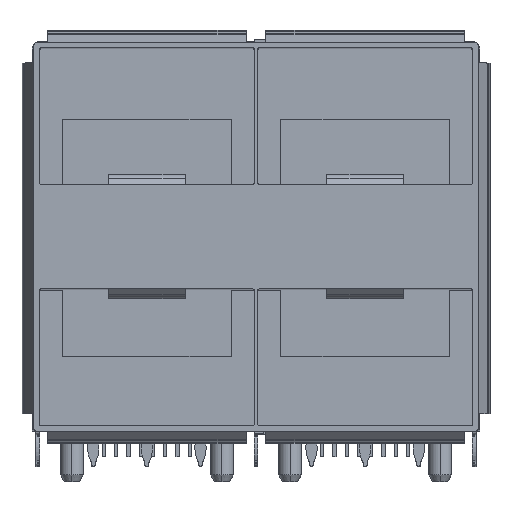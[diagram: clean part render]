
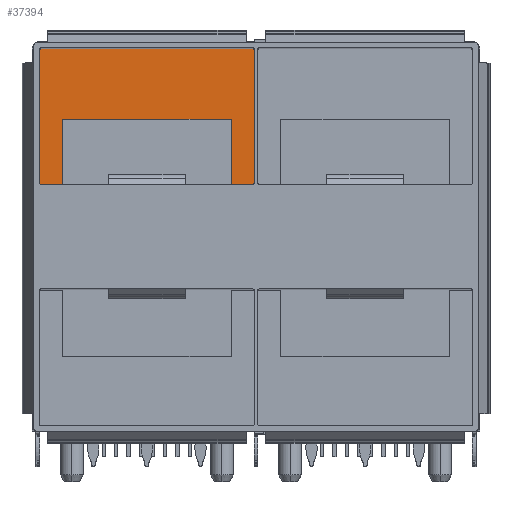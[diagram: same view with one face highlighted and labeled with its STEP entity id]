
A CAD part, top view. The second image highlights one B-rep face of the part: STEP entity #37394.
In plain terms, the highlighted planar face has unit normal (0, 0, 1).
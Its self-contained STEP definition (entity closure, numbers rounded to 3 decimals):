
#45 = ORIENTED_EDGE ( 'NONE', *, *, #14659, .T. ) ;
#656 = CARTESIAN_POINT ( 'NONE',  ( -14.125, 16.1, -48.55 ) ) ;
#1161 = VECTOR ( 'NONE', #45041, 1000. ) ;
#1521 = CARTESIAN_POINT ( 'NONE',  ( -0.225, 24.85, -48.55 ) ) ;
#1567 = VECTOR ( 'NONE', #22207, 1000. ) ;
#2042 = ORIENTED_EDGE ( 'NONE', *, *, #29940, .T. ) ;
#2262 = LINE ( 'NONE', #33394, #37397 ) ;
#2570 = CIRCLE ( 'NONE', #39763, 0.1 ) ;
#2774 = EDGE_CURVE ( 'NONE', #47949, #22321, #49036, .T. ) ;
#4206 = LINE ( 'NONE', #47918, #9230 ) ;
#5104 = CARTESIAN_POINT ( 'NONE',  ( -12.625, 16., -48.55 ) ) ;
#5535 = DIRECTION ( 'NONE',  ( 0., 0., 1. ) ) ;
#5546 = DIRECTION ( 'NONE',  ( 0., 0., 1. ) ) ;
#6894 = ORIENTED_EDGE ( 'NONE', *, *, #43107, .T. ) ;
#8395 = ORIENTED_EDGE ( 'NONE', *, *, #34137, .T. ) ;
#8482 = CARTESIAN_POINT ( 'NONE',  ( -12.625, 20.35, -48.55 ) ) ;
#8944 = ORIENTED_EDGE ( 'NONE', *, *, #2774, .T. ) ;
#9230 = VECTOR ( 'NONE', #11602, 1000. ) ;
#10149 = ORIENTED_EDGE ( 'NONE', *, *, #39039, .T. ) ;
#11602 = DIRECTION ( 'NONE',  ( 1., 0., 0. ) ) ;
#12630 = EDGE_CURVE ( 'NONE', #35079, #36282, #4206, .T. ) ;
#13320 = LINE ( 'NONE', #24440, #30917 ) ;
#13632 = DIRECTION ( 'NONE',  ( -1., 0., 0. ) ) ;
#14378 = LINE ( 'NONE', #44707, #1161 ) ;
#14659 = EDGE_CURVE ( 'NONE', #30217, #16725, #34610, .T. ) ;
#15073 = VERTEX_POINT ( 'NONE', #8482 ) ;
#15475 = DIRECTION ( 'NONE',  ( 0., 0., 1. ) ) ;
#15514 = FACE_OUTER_BOUND ( 'NONE', #25792, .T. ) ;
#15607 = CIRCLE ( 'NONE', #28026, 0.1 ) ;
#15650 = DIRECTION ( 'NONE',  ( -1., 0., 0. ) ) ;
#16276 = VERTEX_POINT ( 'NONE', #656 ) ;
#16397 = VERTEX_POINT ( 'NONE', #30175 ) ;
#16554 = ORIENTED_EDGE ( 'NONE', *, *, #29213, .T. ) ;
#16725 = VERTEX_POINT ( 'NONE', #51191 ) ;
#17485 = LINE ( 'NONE', #45959, #48272 ) ;
#17534 = ORIENTED_EDGE ( 'NONE', *, *, #31127, .T. ) ;
#18154 = PLANE ( 'NONE',  #36897 ) ;
#19294 = ORIENTED_EDGE ( 'NONE', *, *, #50941, .T. ) ;
#19334 = AXIS2_PLACEMENT_3D ( 'NONE', #25747, #5535, #13632 ) ;
#20146 = EDGE_CURVE ( 'NONE', #16397, #45902, #2570, .T. ) ;
#20498 = VECTOR ( 'NONE', #42543, 1000. ) ;
#22207 = DIRECTION ( 'NONE',  ( 0., -1., 0. ) ) ;
#22321 = VERTEX_POINT ( 'NONE', #37436 ) ;
#22376 = DIRECTION ( 'NONE',  ( 0., 0., -1. ) ) ;
#22395 = CARTESIAN_POINT ( 'NONE',  ( -12.625, 20.35, -48.55 ) ) ;
#22973 = EDGE_CURVE ( 'NONE', #15073, #38320, #49417, .T. ) ;
#24440 = CARTESIAN_POINT ( 'NONE',  ( -0.225, 24.95, -48.55 ) ) ;
#25473 = ORIENTED_EDGE ( 'NONE', *, *, #12630, .T. ) ;
#25747 = CARTESIAN_POINT ( 'NONE',  ( -14.025, 16.1, -48.55 ) ) ;
#25792 = EDGE_LOOP ( 'NONE', ( #45, #19294, #44685, #10149, #8395, #8944, #2042, #39417, #6894, #25473, #16554, #17534 ) ) ;
#25907 = CARTESIAN_POINT ( 'NONE',  ( -14.125, 24.85, -48.55 ) ) ;
#28026 = AXIS2_PLACEMENT_3D ( 'NONE', #40721, #15475, #15650 ) ;
#28091 = CARTESIAN_POINT ( 'NONE',  ( -1.625, 20.35, -48.55 ) ) ;
#29213 = EDGE_CURVE ( 'NONE', #36282, #46236, #15607, .T. ) ;
#29940 = EDGE_CURVE ( 'NONE', #22321, #15073, #14378, .T. ) ;
#30175 = CARTESIAN_POINT ( 'NONE',  ( -14.025, 24.95, -48.55 ) ) ;
#30217 = VERTEX_POINT ( 'NONE', #42404 ) ;
#30639 = CARTESIAN_POINT ( 'NONE',  ( -14.375, 25.2, -48.55 ) ) ;
#30917 = VECTOR ( 'NONE', #40223, 1000. ) ;
#31127 = EDGE_CURVE ( 'NONE', #46236, #30217, #2262, .T. ) ;
#33394 = CARTESIAN_POINT ( 'NONE',  ( -0.125, 16.1, -48.55 ) ) ;
#33674 = DIRECTION ( 'NONE',  ( -1., 0., 0. ) ) ;
#34137 = EDGE_CURVE ( 'NONE', #16276, #47949, #47327, .T. ) ;
#34610 = CIRCLE ( 'NONE', #38263, 0.1 ) ;
#35079 = VERTEX_POINT ( 'NONE', #44058 ) ;
#36282 = VERTEX_POINT ( 'NONE', #44103 ) ;
#36897 = AXIS2_PLACEMENT_3D ( 'NONE', #30639, #22376, #38300 ) ;
#37197 = DIRECTION ( 'NONE',  ( 0., 1., 0. ) ) ;
#37394 = ADVANCED_FACE ( 'NONE', ( #15514 ), #18154, .F. ) ;
#37397 = VECTOR ( 'NONE', #37197, 1000. ) ;
#37436 = CARTESIAN_POINT ( 'NONE',  ( -12.625, 16., -48.55 ) ) ;
#38037 = DIRECTION ( 'NONE',  ( 0., -1., 0. ) ) ;
#38263 = AXIS2_PLACEMENT_3D ( 'NONE', #1521, #5546, #33674 ) ;
#38300 = DIRECTION ( 'NONE',  ( -1., 0., 0. ) ) ;
#38320 = VERTEX_POINT ( 'NONE', #28091 ) ;
#38997 = VECTOR ( 'NONE', #40714, 1000. ) ;
#39039 = EDGE_CURVE ( 'NONE', #45902, #16276, #46782, .T. ) ;
#39417 = ORIENTED_EDGE ( 'NONE', *, *, #22973, .T. ) ;
#39763 = AXIS2_PLACEMENT_3D ( 'NONE', #51580, #47161, #50896 ) ;
#39882 = CARTESIAN_POINT ( 'NONE',  ( -0.125, 16.1, -48.55 ) ) ;
#40223 = DIRECTION ( 'NONE',  ( -1., 0., 0. ) ) ;
#40714 = DIRECTION ( 'NONE',  ( 1., 0., 0. ) ) ;
#40721 = CARTESIAN_POINT ( 'NONE',  ( -0.225, 16.1, -48.55 ) ) ;
#42000 = CARTESIAN_POINT ( 'NONE',  ( -14.125, 24.85, -48.55 ) ) ;
#42404 = CARTESIAN_POINT ( 'NONE',  ( -0.125, 24.85, -48.55 ) ) ;
#42543 = DIRECTION ( 'NONE',  ( 1., 0., 0. ) ) ;
#43107 = EDGE_CURVE ( 'NONE', #38320, #35079, #17485, .T. ) ;
#44058 = CARTESIAN_POINT ( 'NONE',  ( -1.625, 16., -48.55 ) ) ;
#44103 = CARTESIAN_POINT ( 'NONE',  ( -0.225, 16., -48.55 ) ) ;
#44685 = ORIENTED_EDGE ( 'NONE', *, *, #20146, .T. ) ;
#44707 = CARTESIAN_POINT ( 'NONE',  ( -12.625, 20.35, -48.55 ) ) ;
#45041 = DIRECTION ( 'NONE',  ( 0., 1., 0. ) ) ;
#45902 = VERTEX_POINT ( 'NONE', #42000 ) ;
#45959 = CARTESIAN_POINT ( 'NONE',  ( -1.625, 20.35, -48.55 ) ) ;
#46236 = VERTEX_POINT ( 'NONE', #39882 ) ;
#46782 = LINE ( 'NONE', #25907, #1567 ) ;
#47161 = DIRECTION ( 'NONE',  ( 0., 0., 1. ) ) ;
#47327 = CIRCLE ( 'NONE', #19334, 0.1 ) ;
#47918 = CARTESIAN_POINT ( 'NONE',  ( -1.625, 16., -48.55 ) ) ;
#47949 = VERTEX_POINT ( 'NONE', #49120 ) ;
#48272 = VECTOR ( 'NONE', #38037, 1000. ) ;
#49036 = LINE ( 'NONE', #5104, #38997 ) ;
#49120 = CARTESIAN_POINT ( 'NONE',  ( -14.025, 16., -48.55 ) ) ;
#49417 = LINE ( 'NONE', #22395, #20498 ) ;
#50896 = DIRECTION ( 'NONE',  ( -1., 0., 0. ) ) ;
#50941 = EDGE_CURVE ( 'NONE', #16725, #16397, #13320, .T. ) ;
#51191 = CARTESIAN_POINT ( 'NONE',  ( -0.225, 24.95, -48.55 ) ) ;
#51580 = CARTESIAN_POINT ( 'NONE',  ( -14.025, 24.85, -48.55 ) ) ;
